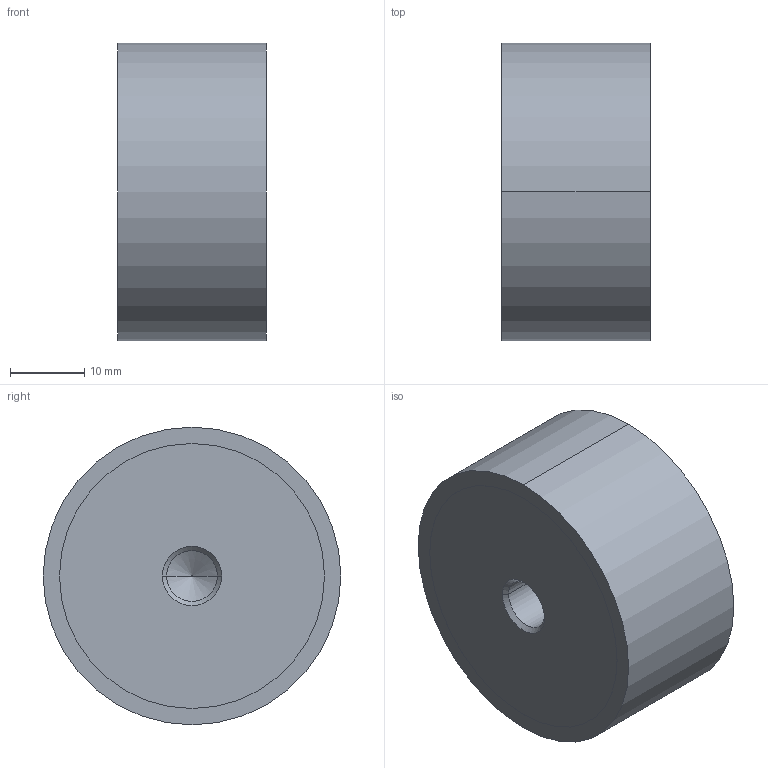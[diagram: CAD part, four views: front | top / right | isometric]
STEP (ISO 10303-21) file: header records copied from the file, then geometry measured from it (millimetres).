
FILE_DESCRIPTION (( 'STEP AP214' ), '1' );
FILE_NAME ('451-40-20-M8-EE-40.step', '2020-03-05T09:12:40', ( '' ), ( '' ), 'SwSTEP 2.0', 'SolidWorks 2019', '' );
FILE_SCHEMA (( 'AUTOMOTIVE_DESIGN' ));
Length unit declared in the file: millimetre
Products named in the file (1): 451-40-20-M8-EE-40
Bounding box: 20 x 40 x 40 mm (x, y, z)
Volume: 24475.2 mm3; surface area: 5368.4 mm2
Topology: 1 solids, 1 shells, 22 faces, 44 edges, 26 vertices
Faces by surface type: cylinder 10, cone 8, plane 4
Entity records: 700 total; most frequent: DIRECTION 116, CARTESIAN_POINT 93, ORIENTED_EDGE 88, AXIS2_PLACEMENT_3D 49, EDGE_CURVE 44, EDGE_LOOP 26, CIRCLE 26, VERTEX_POINT 26
